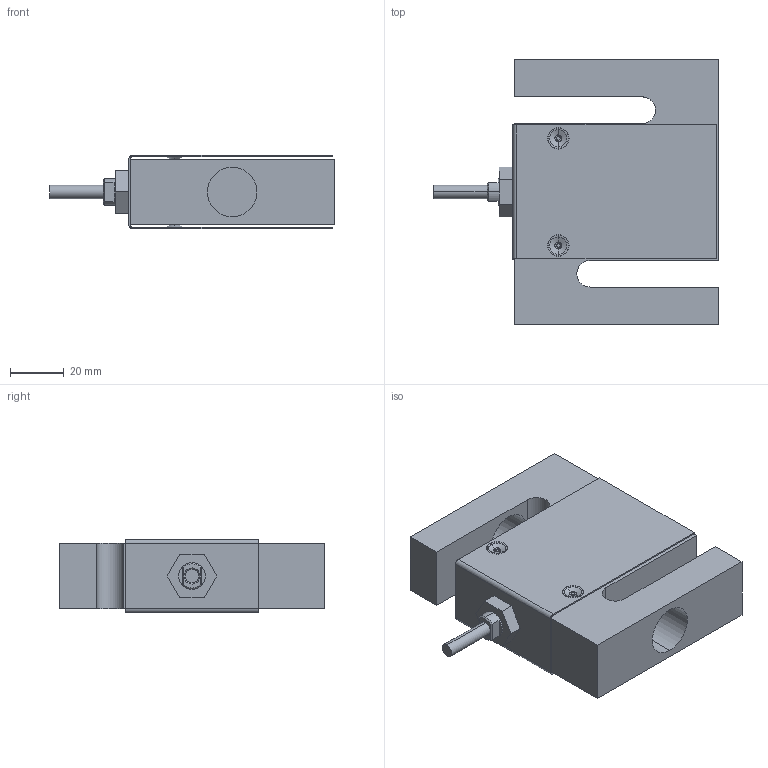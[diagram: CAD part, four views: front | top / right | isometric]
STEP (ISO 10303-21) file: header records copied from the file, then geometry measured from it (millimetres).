
FILE_DESCRIPTION (( 'STEP AP214' ), '1' );
FILE_NAME ('B3G-2,5t assy.STEP', '2012-01-27T08:27:15', ( 'Gebruiker' ), ( 'Microsoft' ), 'SwSTEP 2.0', 'SolidWorks 2011', '' );
FILE_SCHEMA (( 'AUTOMOTIVE_DESIGN' ));
Length unit declared in the file: millimetre
Products named in the file (9): hex thin nut gradeb_iso_Hexagon Nut ISO - 4036 - M10 - S; B3G conduit adaptor; B3G cable; B3G-2.5t gage potting; B3G-2.5t cover; Cover part indrukking; Cover 2.5t; B3G-2.5t element; B3G-2,5t assy
Assembly tree (11 placements, depth 3):
  B3G-2,5t assy
    B3G-2.5t element
    B3G cable
    B3G conduit adaptor
    B3G-2.5t gage potting
    B3G-2.5t cover
      Cover part indrukking  x4
      Cover 2.5t
    hex thin nut gradeb_iso_Hexagon Nut ISO - 4036 - M10 - S
Bounding box: 106.2 x 99 x 27.28 mm (x, y, z)
Volume: 157571.7 mm3; surface area: 53598.3 mm2
Topology: 10 solids, 10 shells, 203 faces, 453 edges, 277 vertices
Faces by surface type: plane 67, cylinder 57, cone 47, torus 32
Entity records: 4788 total; most frequent: DIRECTION 830, CARTESIAN_POINT 744, ORIENTED_EDGE 702, EDGE_CURVE 351, AXIS2_PLACEMENT_3D 319, VERTEX_POINT 217, LINE 192, VECTOR 192
